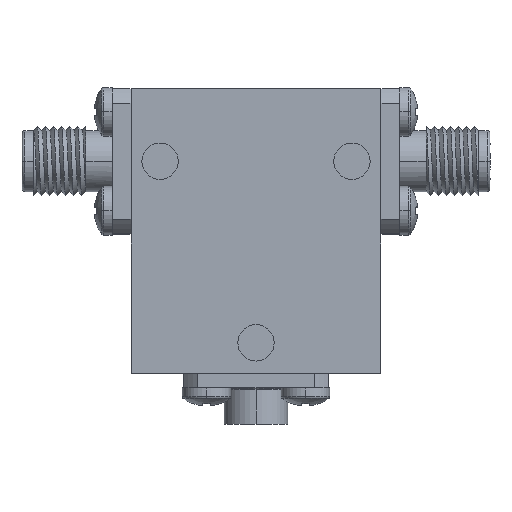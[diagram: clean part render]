
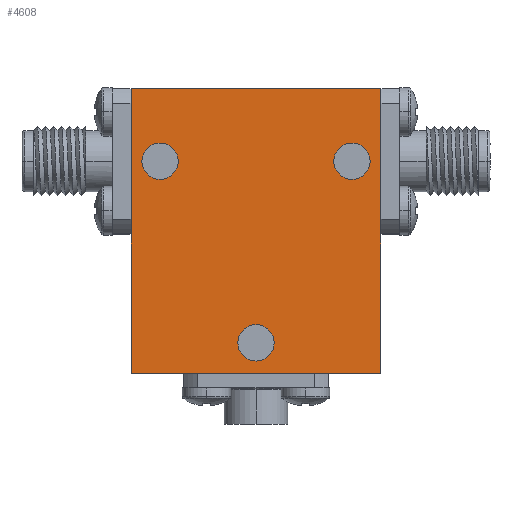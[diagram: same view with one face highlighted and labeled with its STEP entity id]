
A CAD part, top view. The second image highlights one B-rep face of the part: STEP entity #4608.
In plain terms, the highlighted planar face has unit normal (0, 0, 1).
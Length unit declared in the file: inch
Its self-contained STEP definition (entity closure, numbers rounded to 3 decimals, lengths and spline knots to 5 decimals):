
#68 = CARTESIAN_POINT ( 'NONE',  ( 0., -0.385, 0.25 ) ) ;
#80 = ORIENTED_EDGE ( 'NONE', *, *, #762, .T. ) ;
#157 = DIRECTION ( 'NONE',  ( 1., 0., 0. ) ) ;
#167 = ORIENTED_EDGE ( 'NONE', *, *, #4069, .F. ) ;
#170 = VERTEX_POINT ( 'NONE', #2214 ) ;
#260 = DIRECTION ( 'NONE',  ( 0., 0., 1. ) ) ;
#265 = DIRECTION ( 'NONE',  ( 0., -1., 0. ) ) ;
#413 = DIRECTION ( 'NONE',  ( 1., 0., 0. ) ) ;
#446 = CARTESIAN_POINT ( 'NONE',  ( 0.33, 0.24, 0.25 ) ) ;
#485 = EDGE_LOOP ( 'NONE', ( #3245, #2168 ) ) ;
#513 = DIRECTION ( 'NONE',  ( 0., 0., 1. ) ) ;
#601 = VECTOR ( 'NONE', #2104, 39.37008 ) ;
#749 = ORIENTED_EDGE ( 'NONE', *, *, #3316, .F. ) ;
#762 = EDGE_CURVE ( 'NONE', #1181, #2357, #2749, .T. ) ;
#893 = VECTOR ( 'NONE', #4577, 39.37008 ) ;
#911 = VECTOR ( 'NONE', #265, 39.37008 ) ;
#962 = CARTESIAN_POINT ( 'NONE',  ( 0.0625, -0.385, 0.25 ) ) ;
#1059 = VERTEX_POINT ( 'NONE', #2040 ) ;
#1065 = EDGE_CURVE ( 'NONE', #2357, #3848, #2343, .T. ) ;
#1074 = ORIENTED_EDGE ( 'NONE', *, *, #4485, .T. ) ;
#1139 = DIRECTION ( 'NONE',  ( 0., 0., 1. ) ) ;
#1181 = VERTEX_POINT ( 'NONE', #1725 ) ;
#1192 = DIRECTION ( 'NONE',  ( 0., 0., 1. ) ) ;
#1221 = FACE_BOUND ( 'NONE', #485, .T. ) ;
#1233 = AXIS2_PLACEMENT_3D ( 'NONE', #2172, #4463, #2220 ) ;
#1332 = CIRCLE ( 'NONE', #4712, 0.0625 ) ;
#1360 = AXIS2_PLACEMENT_3D ( 'NONE', #68, #1192, #413 ) ;
#1385 = AXIS2_PLACEMENT_3D ( 'NONE', #4269, #513, #2843 ) ;
#1437 = CARTESIAN_POINT ( 'NONE',  ( -0.33, 0.24, 0.25 ) ) ;
#1560 = EDGE_CURVE ( 'NONE', #3527, #1781, #2460, .T. ) ;
#1578 = CARTESIAN_POINT ( 'NONE',  ( 0.43, 0.49, 0.25 ) ) ;
#1615 = ORIENTED_EDGE ( 'NONE', *, *, #3489, .T. ) ;
#1667 = CARTESIAN_POINT ( 'NONE',  ( -0.43, -0.49, 0.25 ) ) ;
#1669 = CARTESIAN_POINT ( 'NONE',  ( -0.0625, -0.385, 0.25 ) ) ;
#1725 = CARTESIAN_POINT ( 'NONE',  ( -0.43, 0.49, 0.25 ) ) ;
#1781 = VERTEX_POINT ( 'NONE', #962 ) ;
#1901 = VERTEX_POINT ( 'NONE', #3763 ) ;
#1902 = VECTOR ( 'NONE', #157, 39.37008 ) ;
#2040 = CARTESIAN_POINT ( 'NONE',  ( 0.43, 0.49, 0.25 ) ) ;
#2083 = CARTESIAN_POINT ( 'NONE',  ( -0.43, 0.49, 0.25 ) ) ;
#2104 = DIRECTION ( 'NONE',  ( -1., 0., 0. ) ) ;
#2168 = ORIENTED_EDGE ( 'NONE', *, *, #4804, .F. ) ;
#2172 = CARTESIAN_POINT ( 'NONE',  ( 0.33, 0.24, 0.25 ) ) ;
#2191 = DIRECTION ( 'NONE',  ( 1., 0., 0. ) ) ;
#2214 = CARTESIAN_POINT ( 'NONE',  ( -0.2675, 0.24, 0.25 ) ) ;
#2220 = DIRECTION ( 'NONE',  ( 1., 0., 0. ) ) ;
#2318 = CIRCLE ( 'NONE', #1360, 0.0625 ) ;
#2343 = LINE ( 'NONE', #1667, #1902 ) ;
#2346 = CARTESIAN_POINT ( 'NONE',  ( 0.2675, 0.24, 0.25 ) ) ;
#2357 = VERTEX_POINT ( 'NONE', #2408 ) ;
#2380 = DIRECTION ( 'NONE',  ( 0., 0., 1. ) ) ;
#2408 = CARTESIAN_POINT ( 'NONE',  ( -0.43, -0.49, 0.25 ) ) ;
#2441 = FACE_BOUND ( 'NONE', #3516, .T. ) ;
#2460 = CIRCLE ( 'NONE', #1385, 0.0625 ) ;
#2522 = CARTESIAN_POINT ( 'NONE',  ( 0., 0., 0.25 ) ) ;
#2529 = CARTESIAN_POINT ( 'NONE',  ( -0.43, 0.49, 0.25 ) ) ;
#2565 = DIRECTION ( 'NONE',  ( 1., 0., 0. ) ) ;
#2602 = LINE ( 'NONE', #2083, #601 ) ;
#2662 = EDGE_CURVE ( 'NONE', #170, #2841, #1332, .T. ) ;
#2749 = LINE ( 'NONE', #2529, #911 ) ;
#2841 = VERTEX_POINT ( 'NONE', #4619 ) ;
#2843 = DIRECTION ( 'NONE',  ( 1., 0., 0. ) ) ;
#2970 = CARTESIAN_POINT ( 'NONE',  ( 0.43, -0.49, 0.25 ) ) ;
#3020 = AXIS2_PLACEMENT_3D ( 'NONE', #3379, #1139, #4077 ) ;
#3025 = CIRCLE ( 'NONE', #4748, 0.0625 ) ;
#3036 = ORIENTED_EDGE ( 'NONE', *, *, #1065, .T. ) ;
#3052 = DIRECTION ( 'NONE',  ( 1., 0., 0. ) ) ;
#3133 = AXIS2_PLACEMENT_3D ( 'NONE', #2522, #260, #2565 ) ;
#3245 = ORIENTED_EDGE ( 'NONE', *, *, #4128, .F. ) ;
#3316 = EDGE_CURVE ( 'NONE', #2841, #170, #4000, .T. ) ;
#3374 = FACE_OUTER_BOUND ( 'NONE', #3468, .T. ) ;
#3379 = CARTESIAN_POINT ( 'NONE',  ( -0.33, 0.24, 0.25 ) ) ;
#3468 = EDGE_LOOP ( 'NONE', ( #1615, #1074, #80, #3036 ) ) ;
#3486 = CIRCLE ( 'NONE', #1233, 0.0625 ) ;
#3489 = EDGE_CURVE ( 'NONE', #3848, #1059, #4117, .T. ) ;
#3516 = EDGE_LOOP ( 'NONE', ( #4249, #749 ) ) ;
#3527 = VERTEX_POINT ( 'NONE', #1669 ) ;
#3652 = FACE_BOUND ( 'NONE', #4374, .T. ) ;
#3763 = CARTESIAN_POINT ( 'NONE',  ( 0.3925, 0.24, 0.25 ) ) ;
#3848 = VERTEX_POINT ( 'NONE', #2970 ) ;
#3852 = ORIENTED_EDGE ( 'NONE', *, *, #1560, .F. ) ;
#4000 = CIRCLE ( 'NONE', #3020, 0.0625 ) ;
#4060 = VERTEX_POINT ( 'NONE', #2346 ) ;
#4069 = EDGE_CURVE ( 'NONE', #1781, #3527, #2318, .T. ) ;
#4077 = DIRECTION ( 'NONE',  ( 1., 0., 0. ) ) ;
#4117 = LINE ( 'NONE', #1578, #893 ) ;
#4128 = EDGE_CURVE ( 'NONE', #1901, #4060, #3025, .T. ) ;
#4249 = ORIENTED_EDGE ( 'NONE', *, *, #2662, .F. ) ;
#4269 = CARTESIAN_POINT ( 'NONE',  ( 0., -0.385, 0.25 ) ) ;
#4374 = EDGE_LOOP ( 'NONE', ( #167, #3852 ) ) ;
#4435 = DIRECTION ( 'NONE',  ( 0., 0., 1. ) ) ;
#4463 = DIRECTION ( 'NONE',  ( 0., 0., 1. ) ) ;
#4485 = EDGE_CURVE ( 'NONE', #1059, #1181, #2602, .T. ) ;
#4577 = DIRECTION ( 'NONE',  ( 0., 1., 0. ) ) ;
#4608 = ADVANCED_FACE ( 'NONE', ( #1221, #3652, #2441, #3374 ), #4787, .T. ) ;
#4619 = CARTESIAN_POINT ( 'NONE',  ( -0.3925, 0.24, 0.25 ) ) ;
#4712 = AXIS2_PLACEMENT_3D ( 'NONE', #1437, #4435, #2191 ) ;
#4748 = AXIS2_PLACEMENT_3D ( 'NONE', #446, #2380, #3052 ) ;
#4787 = PLANE ( 'NONE',  #3133 ) ;
#4804 = EDGE_CURVE ( 'NONE', #4060, #1901, #3486, .T. ) ;
